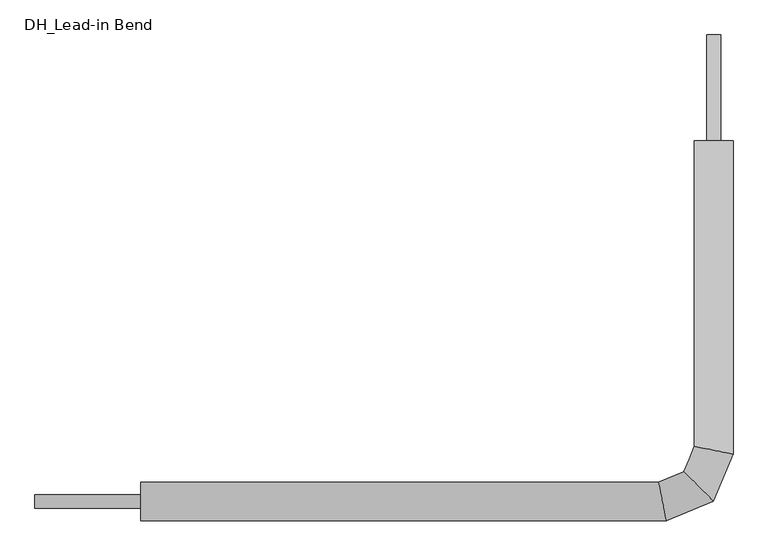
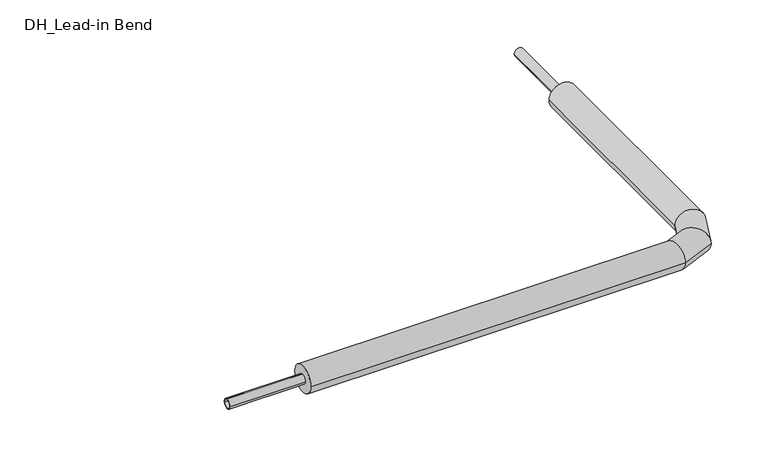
"""IFC4 building model written with IfcOpenShell, lengths in millimetres: pipe fitting geometry, DH_Lead-in Bend : RVT/RVX/RTX UNO 11 Heating."""

from ifc_helpers import new_model, si_unit, point, frame, origin, origin_2d, place, context, project, spatial, circle_curve, ellipse_curve, trimmed, segment, composite_curve, outline, extrude, source, transform, mapped, element, save
from ifc_brep_helpers import plane_surface, cylinder_surface, advanced_brep


def dh_lead_in_bend_cc4b5283(model_context):
    return source(origin(), model_context, "Body", "SolidModel", [
        advanced_brep(
        [(-1350.0, -45.5, 0.0), (-1350.0, 45.5, 0.0), (-112.3494873, -45.5, 0.0), (-130.4505127, 45.5, 0.0), (45.5, 850.0, 0.0), (-45.5, 850.0, 0.0), (-45.5, 130.4505127, 0.0), (45.5, 112.3494873, 0.0), (-0.7330444, 0.7330444, 0.0), (-70.3814291, 70.3814291, 0.0)],
        [
            (0, 1, circle_curve(frame((-1350.0, 0.0, 0.0), z_axis=(-1.0, 0.0, 0.0), x_axis=(0.0, 1.0, 0.0)), 45.5)),
            (1, 0, circle_curve(frame((-1350.0, 0.0, 0.0), z_axis=(-1.0, 0.0, 0.0), x_axis=(0.0, 1.0, 0.0)), 45.5)),
            (0, 2),
            (2, 3, ellipse_curve(frame((-121.4, 0.0, 0.0), z_axis=(-0.9807852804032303, -0.195090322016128, 0.0), x_axis=(-0.19509032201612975, 0.9807852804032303, 0.0)), 46.3913977, 45.5)),
            (3, 1),
            (3, 2, ellipse_curve(frame((-121.4, 0.0, 0.0), z_axis=(-0.9807852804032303, -0.195090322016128, 0.0), x_axis=(-0.19509032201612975, 0.9807852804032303, 0.0)), 46.3913977, 45.5)),
            (4, 5, circle_curve(frame((0.0, 850.0, 0.0), z_axis=(0.0, 1.0, 0.0), x_axis=(-1.0, 0.0, 0.0)), 45.5)),
            (5, 4, circle_curve(frame((0.0, 850.0, 0.0), z_axis=(0.0, 1.0, 0.0), x_axis=(-1.0, 0.0, 0.0)), 45.5)),
            (6, 7, ellipse_curve(frame((0.0, 121.4, 0.0), z_axis=(0.1950903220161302, 0.98078528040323, 0.0), x_axis=(0.9807852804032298, -0.195090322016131, 0.0)), 46.3913977, 45.5)),
            (7, 4),
            (5, 6),
            (7, 6, ellipse_curve(frame((0.0, 121.4, 0.0), z_axis=(0.1950903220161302, 0.98078528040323, 0.0), x_axis=(0.9807852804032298, -0.195090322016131, 0.0)), 46.3913977, 45.5)),
            (2, 8),
            (8, 9, ellipse_curve(frame((-35.5572368, 35.5572368, 0.0), z_axis=(-0.707106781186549, -0.707106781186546, 0.0), x_axis=(-0.7071067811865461, 0.7071067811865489, 0.0)), 49.2488451, 45.5)),
            (9, 3),
            (9, 8, ellipse_curve(frame((-35.5572368, 35.5572368, 0.0), z_axis=(-0.707106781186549, -0.707106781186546, 0.0), x_axis=(-0.7071067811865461, 0.7071067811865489, 0.0)), 49.2488451, 45.5)),
            (8, 7),
            (6, 9),
        ],
        [
            plane_surface(frame((-1350.0, 0.0, 0.0), z_axis=(-1.0, 0.0, 0.0), x_axis=(0.0, 0.0, 1.0))),
            cylinder_surface(frame((-1350.0, 0.0, 0.0), z_axis=(-1.0, 0.0, 0.0), x_axis=(0.0, 1.0, 0.0)), 45.5),
            plane_surface(frame((0.0, 850.0, 0.0), z_axis=(0.0, 1.0, 0.0), x_axis=(0.0, 0.0, 1.0))),
            cylinder_surface(frame((0.0, 121.4, 0.0), z_axis=(0.0, -1.0, 0.0), x_axis=(-1.0, 0.0, 0.0)), 45.5),
            cylinder_surface(frame((-121.4, 0.0, 0.0), z_axis=(-0.923879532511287, -0.38268343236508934, 0.0), x_axis=(-0.38268343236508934, 0.923879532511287, 0.0)), 45.5),
            cylinder_surface(frame((-35.5572368, 35.5572368, 0.0), z_axis=(-0.38268343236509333, -0.9238795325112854, 0.0), x_axis=(-0.9238795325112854, 0.38268343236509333, 0.0)), 45.5),
        ],
        [
            (0, [[1, 2]]),
            (1, [[-1, 3, 4, 5]]),
            (1, [[-2, -5, 6, -3]]),
            (2, [[7, 8]]),
            (3, [[9, 10, -8, 11]]),
            (3, [[12, -11, -7, -10]]),
            (4, [[-4, 13, 14, 15]]),
            (4, [[-6, -15, 16, -13]]),
            (5, [[-14, 17, -9, 18]]),
            (5, [[-16, -18, -12, -17]]),
        ],
    ),
        extrude(outline(composite_curve([segment(trimmed(circle_curve(origin_2d(), 16.0), [point((-16.0, 0.0))], [point((16.0, 0.0))], False, "CARTESIAN"), True, "CONTINUOUS"), segment(trimmed(circle_curve(origin_2d(), 16.0), [point((16.0, 0.0))], [point((-16.0, 0.0))], False, "CARTESIAN"), True, "CONTINUOUS")], self_intersect=False), holes=[composite_curve([segment(trimmed(circle_curve(origin_2d(), 13.1), [point((-13.1, 0.0))], [point((13.1, 0.0))], True, "CARTESIAN"), True, "CONTINUOUS"), segment(trimmed(circle_curve(origin_2d(), 13.1), [point((13.1, 0.0))], [point((-13.1, 0.0))], True, "CARTESIAN"), True, "CONTINUOUS")], self_intersect=False)]), frame((-1600.0, 0.0, 0.0), z_axis=(1.0, 0.0, 0.0), x_axis=(0.0, 1.0, 0.0)), (0.0, 0.0, 1.0), 250.0),
        extrude(outline(composite_curve([segment(trimmed(circle_curve(origin_2d(), 16.0), [point((0.0, 16.0))], [point((0.0, -16.0))], False, "CARTESIAN"), True, "CONTINUOUS"), segment(trimmed(circle_curve(origin_2d(), 16.0), [point((0.0, -16.0))], [point((0.0, 16.0))], False, "CARTESIAN"), True, "CONTINUOUS")], self_intersect=False), holes=[composite_curve([segment(trimmed(circle_curve(origin_2d(), 13.1), [point((0.0, 13.1))], [point((0.0, -13.1))], True, "CARTESIAN"), True, "CONTINUOUS"), segment(trimmed(circle_curve(origin_2d(), 13.1), [point((0.0, -13.1))], [point((0.0, 13.1))], True, "CARTESIAN"), True, "CONTINUOUS")], self_intersect=False)]), frame((0.0, 850.0, 0.0), z_axis=(0.0, 1.0, 0.0), x_axis=(0.0, 0.0, 1.0)), (0.0, 0.0, 1.0), 250.0),
    ])


if __name__ == "__main__":
    model = new_model("IFC4")
    model_context = context("Model", 3, world=origin())
    ifc_project = project(units=[si_unit("LENGTHUNIT", "METRE", prefix="MILLI")], contexts=[model_context])
    site = spatial("IfcSite", under=ifc_project)
    building = spatial("IfcBuilding", under=site)
    placement = place(None, origin())
    dh_lead_in_bend_shape = dh_lead_in_bend_cc4b5283(model_context)
    element("IfcPipeFitting", 1, ObjectType="DH_Lead-in Bend : RVT/RVX/RTX UNO 11 Heating", at=placement, inside=building, context=model_context, shape_type="MappedRepresentation", body=[
        mapped(dh_lead_in_bend_shape, transform((0.0, 0.0, 0.0), x_axis=(1.0, 0.0, 0.0), y_axis=(0.0, 1.0, 0.0), z_axis=(0.0, 0.0, 1.0))),
    ])
    save(model, "model.ifc")
